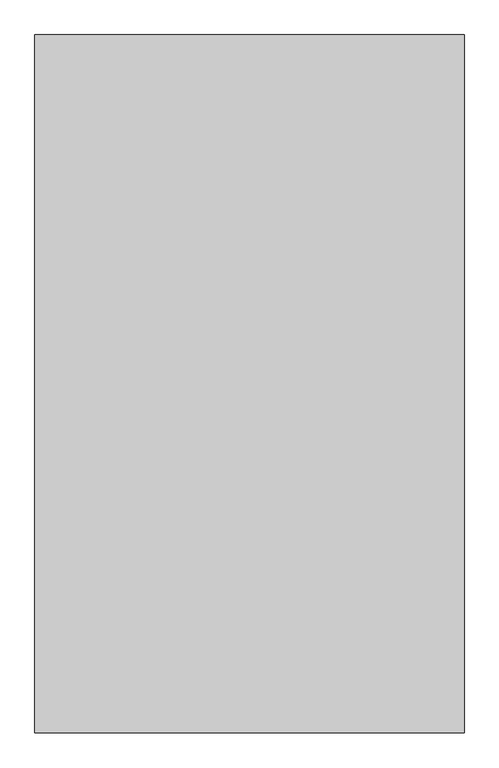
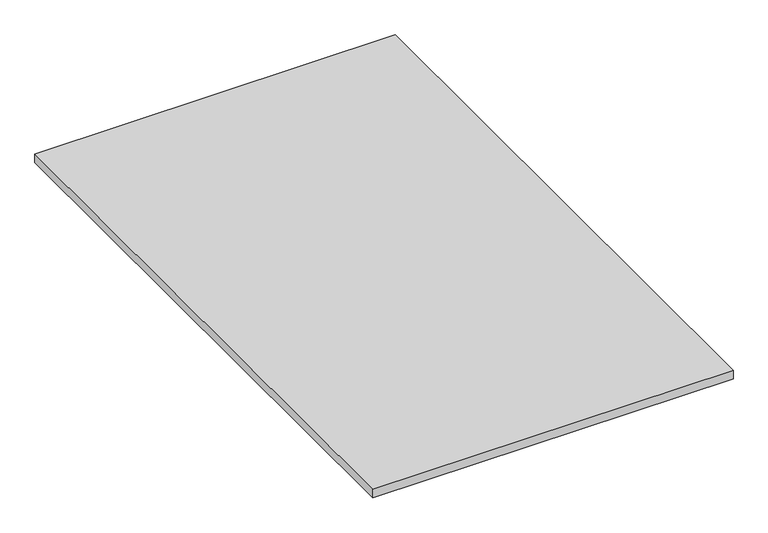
"""IFC4 building model written with IfcOpenShell, lengths in millimetres: proxy geometry, AERO^OFFICE 3_WALL HUNG-TACK."""

from ifc_helpers import new_model, si_unit, origin, origin_with_axes, place, context, project, spatial, polyline, outline, extrude, source, transform, mapped, element, save


def generic_models_dd8b9ff4(model_context):
    return source(origin(), model_context, "Body", "SweptSolid", [
        extrude(outline(polyline([(762.0, 1238.25), (762.0, 0.0), (0.0, 0.0), (0.0, 1238.25), (762.0, 1238.25)])), origin_with_axes(), (0.0, 0.0, 1.0), 19.05),
    ])


if __name__ == "__main__":
    model = new_model("IFC4")
    model_context = context("Model", 3, world=origin())
    ifc_project = project(units=[si_unit("LENGTHUNIT", "METRE", prefix="MILLI")], contexts=[model_context])
    site = spatial("IfcSite", under=ifc_project)
    building = spatial("IfcBuilding", under=site)
    placement = place(None, origin())
    generic_models_shape = generic_models_dd8b9ff4(model_context)
    element("IfcBuildingElementProxy", 1, Name="AERO^OFFICE 3_WALL HUNG-TACK", ObjectType="AERO^OFFICE 3_WALL HUNG-TACK", at=placement, inside=building, context=model_context, shape_type="MappedRepresentation", body=[
        mapped(generic_models_shape, transform((0.0, 0.0, 0.0), x_axis=(1.0, 0.0, 0.0), y_axis=(0.0, 1.0, 0.0), z_axis=(0.0, 0.0, 1.0))),
    ])
    save(model, "model.ifc")
